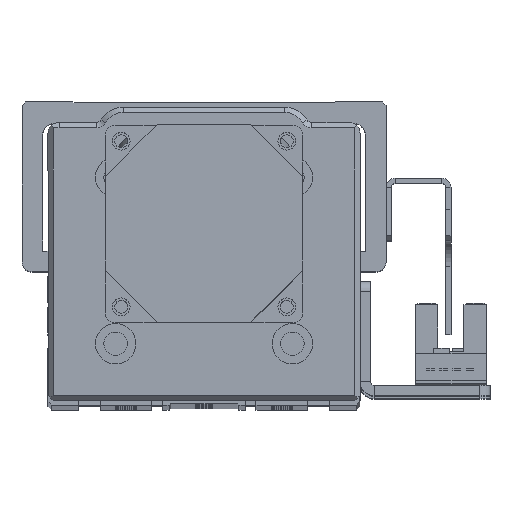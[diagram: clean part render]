
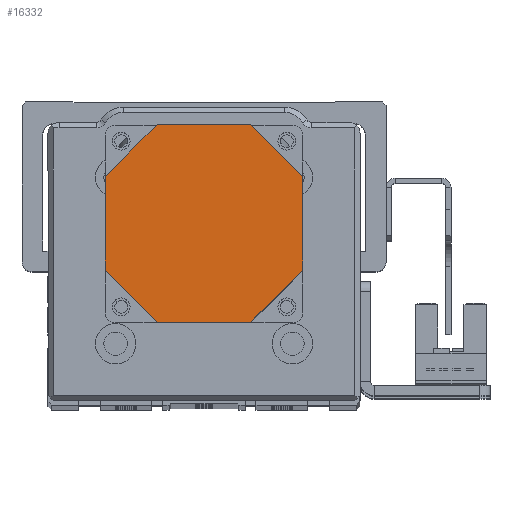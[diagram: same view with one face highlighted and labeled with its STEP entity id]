
A CAD part, top view. The second image highlights one B-rep face of the part: STEP entity #16332.
In plain terms, the highlighted planar face has unit normal (0, 0, 1) as drawn and (0, 0, -1) by its records, which use the part's own axes.
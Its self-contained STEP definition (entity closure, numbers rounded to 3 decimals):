
#4466 = VECTOR ( 'NONE', #5785, 1000. ) ;
#4478 = LINE ( 'NONE', #5776, #4497 ) ;
#4490 = VECTOR ( 'NONE', #5731, 1000. ) ;
#4497 = VECTOR ( 'NONE', #5770, 1000. ) ;
#4513 = LINE ( 'NONE', #5764, #4466 ) ;
#4520 = LINE ( 'NONE', #5708, #4490 ) ;
#4528 = LINE ( 'NONE', #5966, #4562 ) ;
#4562 = VECTOR ( 'NONE', #5977, 1000. ) ;
#4573 = LINE ( 'NONE', #6010, #4574 ) ;
#4574 = VECTOR ( 'NONE', #6012, 1000. ) ;
#4595 = LINE ( 'NONE', #5982, #4643 ) ;
#4599 = VECTOR ( 'NONE', #6051, 1000. ) ;
#4602 = LINE ( 'NONE', #6026, #4604 ) ;
#4604 = VECTOR ( 'NONE', #6036, 1000. ) ;
#4643 = VECTOR ( 'NONE', #6008, 1000. ) ;
#4645 = LINE ( 'NONE', #6049, #4599 ) ;
#5708 = CARTESIAN_POINT ( 'NONE',  ( -19., 9., -84. ) ) ;
#5731 = DIRECTION ( 'NONE',  ( 0., 1., 0. ) ) ;
#5764 = CARTESIAN_POINT ( 'NONE',  ( 19., 9., -84. ) ) ;
#5770 = DIRECTION ( 'NONE',  ( -1., 0., 0. ) ) ;
#5776 = CARTESIAN_POINT ( 'NONE',  ( 9., -19., -84. ) ) ;
#5785 = DIRECTION ( 'NONE',  ( 0., -1., 0. ) ) ;
#5966 = CARTESIAN_POINT ( 'NONE',  ( 9., 19., -84. ) ) ;
#5977 = DIRECTION ( 'NONE',  ( 1., 0., 0. ) ) ;
#5982 = CARTESIAN_POINT ( 'NONE',  ( -9., -19., -84. ) ) ;
#6008 = DIRECTION ( 'NONE',  ( -0.707, 0.707, 0. ) ) ;
#6010 = CARTESIAN_POINT ( 'NONE',  ( 19., 9., -84. ) ) ;
#6012 = DIRECTION ( 'NONE',  ( 0.707, -0.707, 0. ) ) ;
#6026 = CARTESIAN_POINT ( 'NONE',  ( -9., 19., -84. ) ) ;
#6036 = DIRECTION ( 'NONE',  ( 0.707, 0.707, 0. ) ) ;
#6049 = CARTESIAN_POINT ( 'NONE',  ( 19., -9., -84. ) ) ;
#6051 = DIRECTION ( 'NONE',  ( -0.707, -0.707, 0. ) ) ;
#9309 = CARTESIAN_POINT ( 'NONE',  ( -9., 19., -84. ) ) ;
#9386 = CARTESIAN_POINT ( 'NONE',  ( 9., -19., -84. ) ) ;
#9387 = CARTESIAN_POINT ( 'NONE',  ( -9., -19., -84. ) ) ;
#9390 = CARTESIAN_POINT ( 'NONE',  ( -19., -9., -84. ) ) ;
#9392 = CARTESIAN_POINT ( 'NONE',  ( 9., 19., -84. ) ) ;
#9403 = CARTESIAN_POINT ( 'NONE',  ( -19., 9., -84. ) ) ;
#9421 = CARTESIAN_POINT ( 'NONE',  ( 19., -9., -84. ) ) ;
#9422 = CARTESIAN_POINT ( 'NONE',  ( 19., 9., -84. ) ) ;
#10644 = VERTEX_POINT ( 'NONE', #9309 ) ;
#10667 = VERTEX_POINT ( 'NONE', #9392 ) ;
#10674 = VERTEX_POINT ( 'NONE', #9387 ) ;
#10679 = VERTEX_POINT ( 'NONE', #9403 ) ;
#10695 = VERTEX_POINT ( 'NONE', #9421 ) ;
#10696 = VERTEX_POINT ( 'NONE', #9386 ) ;
#10704 = VERTEX_POINT ( 'NONE', #9390 ) ;
#10707 = VERTEX_POINT ( 'NONE', #9422 ) ;
#16039 = EDGE_LOOP ( 'NONE', ( #24296, #24262, #24190, #24235, #24200, #24221, #24211, #24301 ) ) ;
#16332 = ADVANCED_FACE ( 'NONE', ( #26320 ), #17106, .F. ) ;
#17073 = DIRECTION ( 'NONE',  ( 0., 0., 1. ) ) ;
#17076 = CARTESIAN_POINT ( 'NONE',  ( 0., 0., -84. ) ) ;
#17084 = DIRECTION ( 'NONE',  ( 1., 0., 0. ) ) ;
#17106 = PLANE ( 'NONE',  #19477 ) ;
#18543 = EDGE_CURVE ( 'NONE', #10704, #10679, #4520, .T. ) ;
#18550 = EDGE_CURVE ( 'NONE', #10696, #10674, #4478, .T. ) ;
#18556 = EDGE_CURVE ( 'NONE', #10707, #10695, #4513, .T. ) ;
#18599 = EDGE_CURVE ( 'NONE', #10644, #10667, #4528, .T. ) ;
#18612 = EDGE_CURVE ( 'NONE', #10667, #10707, #4573, .T. ) ;
#18619 = EDGE_CURVE ( 'NONE', #10674, #10704, #4595, .T. ) ;
#18628 = EDGE_CURVE ( 'NONE', #10695, #10696, #4645, .T. ) ;
#18641 = EDGE_CURVE ( 'NONE', #10679, #10644, #4602, .T. ) ;
#19477 = AXIS2_PLACEMENT_3D ( 'NONE', #17076, #17073, #17084 ) ;
#24190 = ORIENTED_EDGE ( 'NONE', *, *, #18641, .T. ) ;
#24200 = ORIENTED_EDGE ( 'NONE', *, *, #18612, .T. ) ;
#24211 = ORIENTED_EDGE ( 'NONE', *, *, #18628, .T. ) ;
#24221 = ORIENTED_EDGE ( 'NONE', *, *, #18556, .T. ) ;
#24235 = ORIENTED_EDGE ( 'NONE', *, *, #18599, .T. ) ;
#24262 = ORIENTED_EDGE ( 'NONE', *, *, #18543, .T. ) ;
#24296 = ORIENTED_EDGE ( 'NONE', *, *, #18619, .T. ) ;
#24301 = ORIENTED_EDGE ( 'NONE', *, *, #18550, .T. ) ;
#26320 = FACE_OUTER_BOUND ( 'NONE', #16039, .T. ) ;
